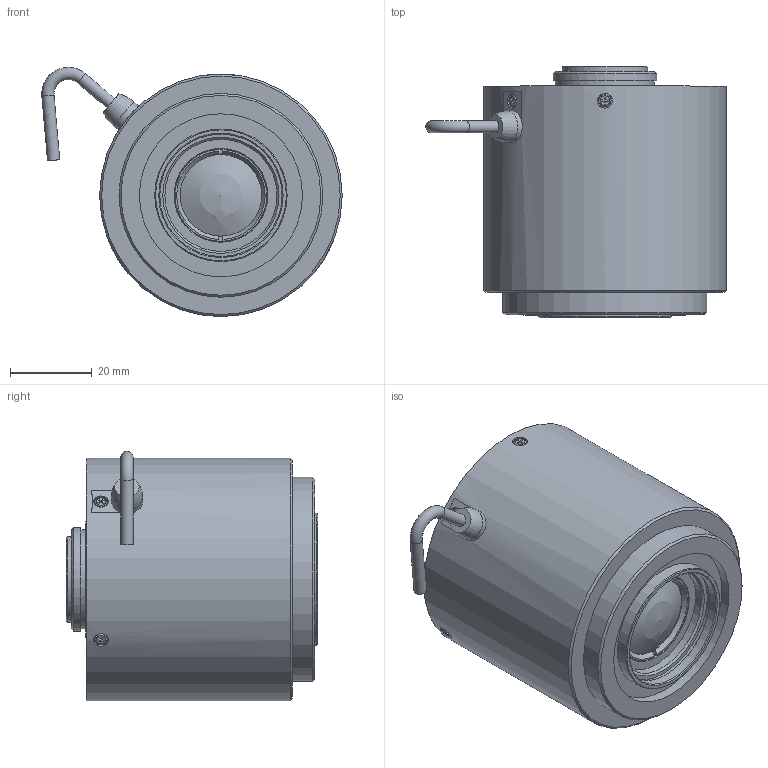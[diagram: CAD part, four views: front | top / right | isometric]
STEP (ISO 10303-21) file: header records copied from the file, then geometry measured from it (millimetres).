
FILE_DESCRIPTION(/* description */ ('Unknown'),/* implementation_level */ '2;1');
FILE_NAME(/* name */ 'Reference 3D-drawing of DL2523UC-MPY (Confidential_Tentative)_211014',/* time_stamp */ '2021-10-14T10:25:13+09:00',/* author */ ('Unknown'),/* organization */ ('Unknown'),/* preprocessor_version */ 'ST-DEVELOPER v16.7',/* originating_system */ 'DEX',/* authorisation */ $);
FILE_SCHEMA (('AUTOMOTIVE_DESIGN {1 0 10303 214 3 1 1}'));
Length unit declared in the file: millimetre
Products named in the file (1): DL2523UC-MPY
Bounding box: 73.68 x 61.69 x 61.13 mm (x, y, z)
Volume: 149379.5 mm3; surface area: 18225.2 mm2
Topology: 1 solids, 6 shells, 284 faces, 668 edges, 438 vertices
Faces by surface type: plane 198, cylinder 55, cone 19, torus 10, sphere 2
Full cylindrical faces by diameter (mm): 1 x2, 2 x4, 2.2 x4, 3 x10, 3.6 x4, 3.8 x4, 7.699 x1, 13.6 x1, 14.221 x1, 20 x1, 21 x1, 24.3 x1, 25.4 x1, 27.5 x1, 29 x1, 30 x1, 30.5 x1, 32.5 x1, 40 x1, 50 x1, 59.5 x1
Entity records: 9694 total; most frequent: CARTESIAN_POINT 1419, DIRECTION 1263, ORIENTED_EDGE 1166, EDGE_CURVE 583, LINE 441, VECTOR 441, VERTEX_POINT 425, AXIS2_PLACEMENT_3D 411
